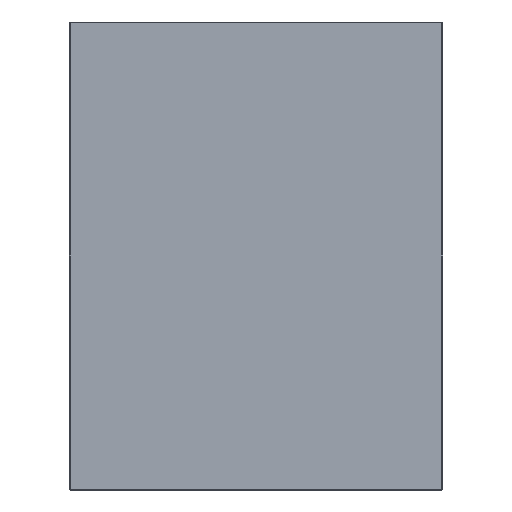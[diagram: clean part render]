
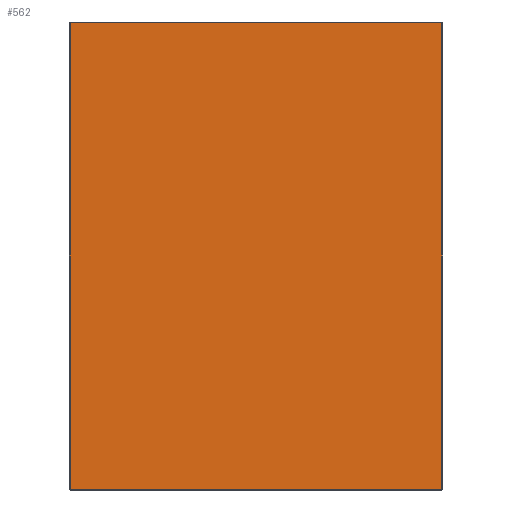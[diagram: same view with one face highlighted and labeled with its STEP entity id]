
A CAD part, front view. The second image highlights one B-rep face of the part: STEP entity #562.
In plain terms, the highlighted planar face has unit normal (0, -1, 0).
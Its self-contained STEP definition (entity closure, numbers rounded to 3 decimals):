
#22 = CARTESIAN_POINT ( 'NONE',  ( 197., 0., 247. ) ) ;
#33 = VERTEX_POINT ( 'NONE', #592 ) ;
#34 = ORIENTED_EDGE ( 'NONE', *, *, #548, .T. ) ;
#128 = EDGE_CURVE ( 'NONE', #363, #629, #253, .T. ) ;
#143 = DIRECTION ( 'NONE',  ( 0., 0., 1. ) ) ;
#146 = LINE ( 'NONE', #195, #192 ) ;
#153 = VERTEX_POINT ( 'NONE', #347 ) ;
#168 = PLANE ( 'NONE',  #406 ) ;
#183 = ORIENTED_EDGE ( 'NONE', *, *, #128, .T. ) ;
#185 = CARTESIAN_POINT ( 'NONE',  ( 0., 0., 0. ) ) ;
#192 = VECTOR ( 'NONE', #306, 1000. ) ;
#195 = CARTESIAN_POINT ( 'NONE',  ( 0., 0., -247. ) ) ;
#205 = LINE ( 'NONE', #506, #325 ) ;
#210 = DIRECTION ( 'NONE',  ( 0., 1., 0. ) ) ;
#253 = LINE ( 'NONE', #593, #549 ) ;
#271 = ORIENTED_EDGE ( 'NONE', *, *, #358, .T. ) ;
#278 = FACE_OUTER_BOUND ( 'NONE', #324, .T. ) ;
#306 = DIRECTION ( 'NONE',  ( 1., 0., 0. ) ) ;
#324 = EDGE_LOOP ( 'NONE', ( #183, #463, #271, #34 ) ) ;
#325 = VECTOR ( 'NONE', #632, 1000. ) ;
#347 = CARTESIAN_POINT ( 'NONE',  ( -197., 0., -247. ) ) ;
#357 = LINE ( 'NONE', #582, #608 ) ;
#358 = EDGE_CURVE ( 'NONE', #33, #153, #205, .T. ) ;
#363 = VERTEX_POINT ( 'NONE', #533 ) ;
#406 = AXIS2_PLACEMENT_3D ( 'NONE', #185, #210, #143 ) ;
#416 = DIRECTION ( 'NONE',  ( -1., 0., 0. ) ) ;
#463 = ORIENTED_EDGE ( 'NONE', *, *, #487, .T. ) ;
#487 = EDGE_CURVE ( 'NONE', #629, #33, #357, .T. ) ;
#506 = CARTESIAN_POINT ( 'NONE',  ( -197., 0., 0. ) ) ;
#533 = CARTESIAN_POINT ( 'NONE',  ( 197., 0., -247. ) ) ;
#548 = EDGE_CURVE ( 'NONE', #153, #363, #146, .T. ) ;
#549 = VECTOR ( 'NONE', #585, 1000. ) ;
#562 = ADVANCED_FACE ( 'NONE', ( #278 ), #168, .F. ) ;
#582 = CARTESIAN_POINT ( 'NONE',  ( 0., 0., 247. ) ) ;
#585 = DIRECTION ( 'NONE',  ( 0., 0., 1. ) ) ;
#592 = CARTESIAN_POINT ( 'NONE',  ( -197., 0., 247. ) ) ;
#593 = CARTESIAN_POINT ( 'NONE',  ( 197., 0., 0. ) ) ;
#608 = VECTOR ( 'NONE', #416, 1000. ) ;
#629 = VERTEX_POINT ( 'NONE', #22 ) ;
#632 = DIRECTION ( 'NONE',  ( 0., 0., -1. ) ) ;
